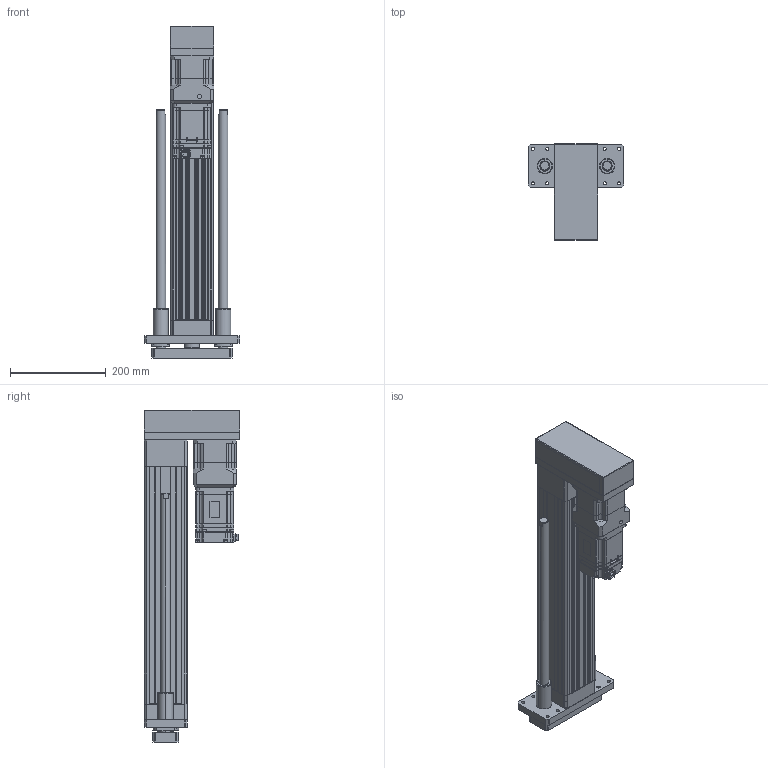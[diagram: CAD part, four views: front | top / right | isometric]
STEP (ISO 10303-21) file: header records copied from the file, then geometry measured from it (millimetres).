
FILE_DESCRIPTION (( 'STEP AP203' ), '1' );
FILE_NAME ('ANS090H-GP350-05(10)(25)-W75G05.STEP', '2019-03-18T03:07:19', ( 'user' ), ( '' ), 'SwSTEP 2.0', 'SolidWorks 2013', '' );
FILE_SCHEMA (( 'CONFIG_CONTROL_DESIGN' ));
Length unit declared in the file: millimetre
Products named in the file (5): ANS090H-GP350-05(10)(25)-W75G05; ANS090 ROD ST350-G; SGMJV_08A_A21; ANS090H GP350 VER2; AB090-005-S1-P2[YASKAWA SGMJV08A]
Assembly tree (4 placements, depth 2):
  ANS090H-GP350-05(10)(25)-W75G05
    ANS090H GP350 VER2
    ANS090 ROD ST350-G
    SGMJV_08A_A21
    AB090-005-S1-P2[YASKAWA SGMJV08A]
Bounding box: 200 x 200 x 692 mm (x, y, z)
Volume: 4380865.5 mm3; surface area: 894218.3 mm2
Topology: 3 solids, 14 shells, 1545 faces, 4030 edges, 2588 vertices
Faces by surface type: plane 828, cylinder 529, cone 164, bspline 12, sphere 8, torus 4
Entity records: 48188 total; most frequent: CARTESIAN_POINT 9040, DIRECTION 8191, ORIENTED_EDGE 7932, EDGE_CURVE 4010, AXIS2_PLACEMENT_3D 2779, LINE 2633, VECTOR 2633, VERTEX_POINT 2588
